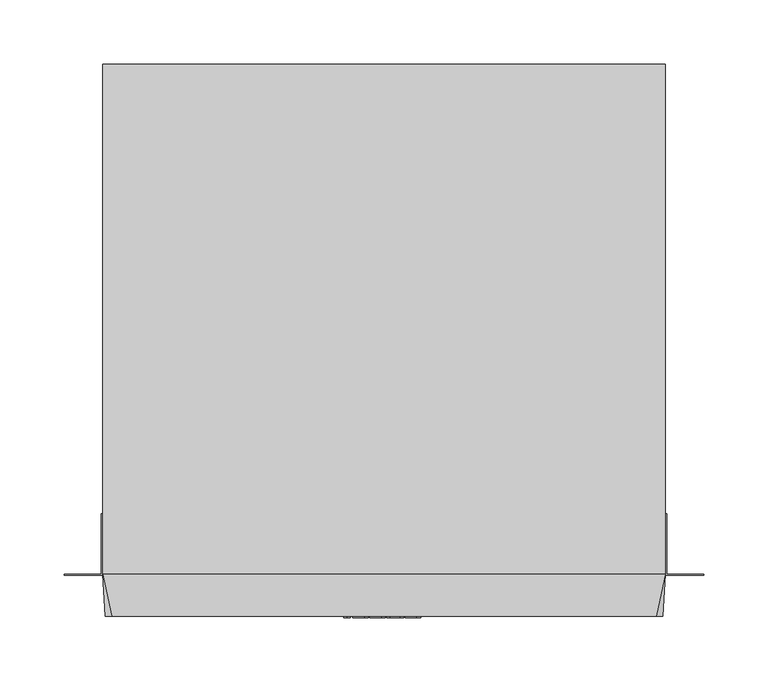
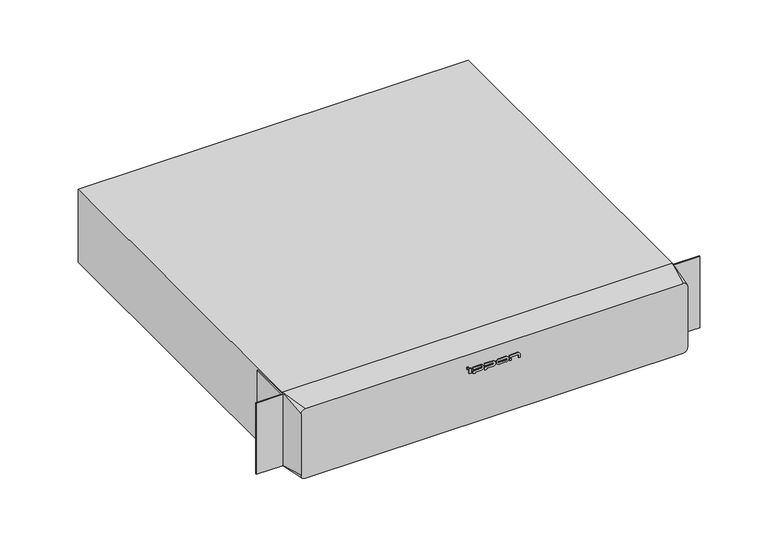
"""IFC4 building model written with IfcOpenShell, lengths in millimetres: proxy geometry, IPPON_EBM_Smart Winner II_1500_2000_2000E_3000ВА : EBM Smart Winner II 1500 ВА."""

import ifcopenshell
import ifcopenshell.guid

model = None  # the IFC model being written
_history = None  # IfcOwnerHistory: only IFC2X3 demands one
_inside = {}  # id of a spatial element -> (the spatial element, [elements in it])
_under = {}  # id of a project, library or spatial element -> (it, [spatial elements below it])
_declared = {}  # id of a project -> (the project, [libraries it declares])
_typed = {}  # id of a type object -> (the type object, [elements of that type])
_made_of = {}  # id of a material, layer set ... -> (it, [elements and type objects made of it])


def new_model(schema):
    """Start an empty IFC model of exactly this schema.

    Asked for "IFC4X3", IfcOpenShell would pick the latest addendum, in which some entities
    have other attributes; the version numbers below select the first issue.
    IFC2X3 requires an IfcOwnerHistory on every rooted entity: one is made here for all.
    """
    global model, _history
    if schema == "IFC4X3":
        model = ifcopenshell.file(schema_version=(4, 3, 0, 0))
    else:
        model = ifcopenshell.file(schema=schema)
    _inside.clear()
    _under.clear()
    _declared.clear()
    _typed.clear()
    _made_of.clear()
    _history = None
    if model.schema == "IFC2X3":
        org = make("IfcOrganization", Name="unknown")
        user = make(
            "IfcPersonAndOrganization",
            ThePerson=make("IfcPerson", FamilyName="unknown"),
            TheOrganization=org,
        )
        app = make(
            "IfcApplication",
            ApplicationDeveloper=org,
            Version="unknown",
            ApplicationFullName="unknown",
            ApplicationIdentifier="unknown",
        )
        _history = make(
            "IfcOwnerHistory",
            OwningUser=user,
            OwningApplication=app,
            ChangeAction="ADDED",
            CreationDate=0,
        )
    return model


def make(cls, **values):
    """One entity of the class cls with the attributes given. An attribute that is None is left unset."""
    return model.create_entity(
        cls, **{name: value for name, value in values.items() if value is not None}
    )


def rooted(cls, **values):
    """An entity with a GlobalId (a new one), such as an element, a storey or a relation."""
    return make(cls, GlobalId=ifcopenshell.guid.new(), OwnerHistory=_history, **values)


def si_unit(unit_type, name, prefix=None):
    """IfcSIUnit, for example si_unit("LENGTHUNIT", "METRE", prefix="MILLI")."""
    return make("IfcSIUnit", UnitType=unit_type, Prefix=prefix, Name=name)


def assignment(units):
    """IfcUnitAssignment: the units of a project."""
    return None if units is None else make("IfcUnitAssignment", Units=units)


def point(xyz):
    """IfcCartesianPoint."""
    return None if xyz is None else make("IfcCartesianPoint", Coordinates=xyz)


def direction(xyz):
    """IfcDirection."""
    return None if xyz is None else make("IfcDirection", DirectionRatios=xyz)


def frame(location, z_axis=None, x_axis=None):
    """IfcAxis2Placement3D, a coordinate frame: its origin and axes. An axis left out is left unset."""
    return make(
        "IfcAxis2Placement3D",
        Location=point(location),
        Axis=direction(z_axis),
        RefDirection=direction(x_axis),
    )


def frame_2d(location, x_axis=None):
    """IfcAxis2Placement2D, a coordinate frame in the plane: its origin and x axis."""
    return make(
        "IfcAxis2Placement2D", Location=point(location), RefDirection=direction(x_axis)
    )


def origin():
    """The frame at (0, 0, 0) with its axes left unset."""
    return frame((0.0, 0.0, 0.0))


def place(relative_to, where):
    """IfcLocalPlacement: puts the frame where relative to a parent placement (None: the world)."""
    return make(
        "IfcLocalPlacement", PlacementRelTo=relative_to, RelativePlacement=where
    )


def context(
    kind, dimensions, precision=None, world=None, true_north=None, identifier=None
):
    """IfcGeometricRepresentationContext, for example the 3D "Model" context."""
    return make(
        "IfcGeometricRepresentationContext",
        ContextIdentifier=identifier,
        ContextType=kind,
        CoordinateSpaceDimension=dimensions,
        Precision=precision,
        WorldCoordinateSystem=world,
        TrueNorth=true_north,
    )


def project(units=None, contexts=None):
    """IfcProject with its units and contexts."""
    return rooted(
        "IfcProject",
        Name="project",
        RepresentationContexts=contexts,
        UnitsInContext=assignment(units),
    )


def spatial(cls, under=None, at=None, **own):
    """A site, building, storey or space (cls), placed at a placement, below another one or the project."""
    s = rooted(cls, ObjectPlacement=at, **own)
    if under is not None:
        _under.setdefault(under.id(), (under, []))[1].append(s)
    return s


def polyline(points):
    """IfcPolyline through the points."""
    return make("IfcPolyline", Points=[point(p) for p in points])


def circle_curve(where, radius):
    """IfcCircle in the frame where."""
    return make("IfcCircle", Position=where, Radius=radius)


def trimmed(basis, trim1, trim2, sense, master):
    """IfcTrimmedCurve: the piece of a basis curve between two trims."""
    return make(
        "IfcTrimmedCurve",
        BasisCurve=basis,
        Trim1=trim1,
        Trim2=trim2,
        SenseAgreement=sense,
        MasterRepresentation=master,
    )


def segment(curve, same_sense, transition):
    """IfcCompositeCurveSegment."""
    return make(
        "IfcCompositeCurveSegment",
        Transition=transition,
        SameSense=same_sense,
        ParentCurve=curve,
    )


def composite_curve(segments, self_intersect=None):
    """IfcCompositeCurve: segments joined end to end."""
    return make("IfcCompositeCurve", Segments=segments, SelfIntersect=self_intersect)


def outline(outer, holes=None, kind="AREA"):
    """IfcArbitraryClosedProfileDef: a profile drawn as a closed curve; with holes, ...WithVoids."""
    if holes is None:
        return make("IfcArbitraryClosedProfileDef", ProfileType=kind, OuterCurve=outer)
    return make(
        "IfcArbitraryProfileDefWithVoids",
        ProfileType=kind,
        OuterCurve=outer,
        InnerCurves=holes,
    )


def extrude(swept, where, along, depth):
    """IfcExtrudedAreaSolid: the profile swept, set in the frame where, extruded along a direction by depth."""
    return make(
        "IfcExtrudedAreaSolid",
        SweptArea=swept,
        Position=where,
        ExtrudedDirection=direction(along),
        Depth=depth,
    )


def shape(context_of_items, identifier, shape_type, items):
    """IfcShapeRepresentation: the items that make up one representation, for example the "Body"."""
    return make(
        "IfcShapeRepresentation",
        ContextOfItems=context_of_items,
        RepresentationIdentifier=identifier,
        RepresentationType=shape_type,
        Items=items,
    )


def source(mapping_origin, context_of_items, identifier, shape_type, items):
    """IfcRepresentationMap: a shape defined once, which mapped items show again and again."""
    return make(
        "IfcRepresentationMap",
        MappingOrigin=mapping_origin,
        MappedRepresentation=shape(context_of_items, identifier, shape_type, items),
    )


def transform(
    local_origin,
    x_axis=None,
    y_axis=None,
    z_axis=None,
    scale=None,
    scale2=None,
    scale3=None,
    uniform=True,
):
    """IfcCartesianTransformationOperator3D, or its non-uniform kind. x_axis, y_axis, z_axis: its Axis1, 2, 3."""
    if uniform:
        return make(
            "IfcCartesianTransformationOperator3D",
            Axis1=direction(x_axis),
            Axis2=direction(y_axis),
            LocalOrigin=point(local_origin),
            Scale=scale,
            Axis3=direction(z_axis),
        )
    return make(
        "IfcCartesianTransformationOperator3DnonUniform",
        Axis1=direction(x_axis),
        Axis2=direction(y_axis),
        LocalOrigin=point(local_origin),
        Scale=scale,
        Axis3=direction(z_axis),
        Scale2=scale2,
        Scale3=scale3,
    )


def mapped(mapping_source, mapping_target):
    """IfcMappedItem: shows the shape of a source again, moved by a transform."""
    return make(
        "IfcMappedItem", MappingSource=mapping_source, MappingTarget=mapping_target
    )


def made_of(thing, what):
    """Note that an element or type object is made of a material, layer set ...; save() writes the relation."""
    if what is not None:
        _made_of.setdefault(what.id(), (what, []))[1].append(thing)
    return thing


def element(
    cls,
    number,
    at=None,
    inside=None,
    cuts=None,
    type_object=None,
    material=None,
    context=None,
    identifier="Body",
    shape_type=None,
    held_by="IfcProductDefinitionShape",
    body=None,
    shapes=None,
    **own,
):
    """One element of the class cls, such as IfcWall. Its Tag is "e" and its number.

    at: its placement. inside: the storey or other place that contains it. cuts: it is an
    opening in that element (IfcRelVoidsElement). A single representation is given by context,
    identifier, shape_type and body (its items); several are given by shapes. held_by: the class
    of the entity that holds the representations. save() writes the other relations.
    """
    e = rooted(cls, Tag="e%d" % number, ObjectPlacement=at, **own)
    if body is not None:
        shapes = [shape(context, identifier, shape_type, body)]
    if shapes is not None:
        e.Representation = make(held_by, Representations=shapes)
    if inside is not None:
        _inside.setdefault(inside.id(), (inside, []))[1].append(e)
    if cuts is not None:
        rooted(
            "IfcRelVoidsElement", RelatingBuildingElement=cuts, RelatedOpeningElement=e
        )
    if type_object is not None:
        _typed.setdefault(type_object.id(), (type_object, []))[1].append(e)
    return made_of(e, material)


def aggregate(whole, parts):
    """IfcRelAggregates: a whole, such as a stair, and the parts it consists of."""
    return rooted("IfcRelAggregates", RelatingObject=whole, RelatedObjects=parts)


def save(model, path):
    """Write the relations noted so far, then the file.

    IfcRelAggregates (storeys below a building ...), IfcRelContainedInSpatialStructure (elements
    in a storey), IfcRelDefinesByType, IfcRelAssociatesMaterial and IfcRelDeclares: one each for
    every whole, place, type object, material and project.
    """
    for whole, parts in _under.values():
        aggregate(whole, parts)
    for where, things in _inside.values():
        rooted(
            "IfcRelContainedInSpatialStructure",
            RelatedElements=things,
            RelatingStructure=where,
        )
    for kind, things in _typed.values():
        rooted("IfcRelDefinesByType", RelatedObjects=things, RelatingType=kind)
    for what, things in _made_of.values():
        rooted("IfcRelAssociatesMaterial", RelatedObjects=things, RelatingMaterial=what)
    for by, libraries in _declared.values():
        rooted("IfcRelDeclares", RelatingContext=by, RelatedDefinitions=libraries)
    model.write(path)


def plane_surface(at):
    """IfcPlane: the flat surface through the origin of the frame at, square to its z axis."""
    return make("IfcPlane", Position=at)


def spline_surface(u_degree, v_degree, points, u_multiplicities, v_multiplicities, u_knots, v_knots, weights=None):
    """IfcBSplineSurfaceWithKnots; with weights, IfcRationalBSplineSurfaceWithKnots. points: one row for each step in u."""
    own = dict(
        UDegree=u_degree,
        VDegree=v_degree,
        ControlPointsList=[[point(p) for p in row] for row in points],
        SurfaceForm="UNSPECIFIED",
        UClosed=False,
        VClosed=False,
        SelfIntersect=False,
        UMultiplicities=u_multiplicities,
        VMultiplicities=v_multiplicities,
        UKnots=u_knots,
        VKnots=v_knots,
        KnotSpec="UNSPECIFIED",
    )
    if weights is None:
        return make("IfcBSplineSurfaceWithKnots", **own)
    return make("IfcRationalBSplineSurfaceWithKnots", WeightsData=weights, **own)


def advanced_brep(points, edges, surfaces, faces):
    """IfcAdvancedBrep: a solid bounded by faces that lie on surfaces and meet in shared edges.

    An edge is (start, end): straight between two places in points (the first is 0);
    or (start, end, curve); or (start, end, curve, False) where it runs against its curve.
    A face is (place in surfaces, loops), or (place, loops, False) where it looks against
    its surface's normal. A loop lists edges by number (the first is 1), with a minus sign
    where the edge is run from its end to its start. The first loop is the outer one.
    """
    corners = [point(p) for p in points]
    vertices = [make("IfcVertexPoint", VertexGeometry=c) for c in corners]
    made = []
    for start, end, *more in edges:
        made.append(
            make(
                "IfcEdgeCurve",
                EdgeStart=vertices[start],
                EdgeEnd=vertices[end],
                EdgeGeometry=more[0] if more else make("IfcPolyline", Points=[corners[start], corners[end]]),
                SameSense=more[1] if len(more) > 1 else True,
            )
        )
    hull = []
    for where, loops, *sense in faces:
        bounds = []
        for j, loop in enumerate(loops):
            ring = [make("IfcOrientedEdge", EdgeElement=made[abs(k) - 1], Orientation=k > 0) for k in loop]
            bounds.append(
                make(
                    "IfcFaceOuterBound" if j == 0 else "IfcFaceBound",
                    Bound=make("IfcEdgeLoop", EdgeList=ring),
                    Orientation=True,
                )
            )
        hull.append(make("IfcAdvancedFace", Bounds=bounds, FaceSurface=surfaces[where], SameSense=sense[0] if sense else True))
    return make("IfcAdvancedBrep", Outer=make("IfcClosedShell", CfsFaces=hull))


def electrical_equipment_7cab53b0(model_context):
    return source(origin(), model_context, "Body", "SolidModel", [
        extrude(outline(polyline([(-29.1718133, -1.0), (-31.1718133, -1.0), (-31.1718133, 0.0), (-29.1718133, 0.0), (-29.1718133, -1.0)])), frame((0.0, 0.0, 70.0945835), z_axis=(0.0, 0.0, 1.0), x_axis=(1.0, 0.0, 0.0)), (0.0, 0.0, 1.0), 2.3),
        extrude(outline(polyline([(18.6035474, -1.0), (16.6035474, -1.0), (16.6035474, 0.0), (18.6035474, 0.0), (18.6035474, -1.0)])), frame((0.0, 0.0, 64.0945835), z_axis=(0.0, 0.0, 1.0), x_axis=(1.0, 0.0, 0.0)), (0.0, 0.0, 1.0), 2.2268231),
        extrude(outline(polyline([(-26.438565, -1.0), (-28.4833324, -1.0), (-28.4833324, 0.0), (-26.438565, 0.0), (-26.438565, -1.0)])), frame((0.0, 0.0, 64.0945835), z_axis=(0.0, 0.0, 1.0), x_axis=(1.0, 0.0, 0.0)), (0.0, 0.0, 1.0), 6.0),
        extrude(outline(composite_curve([segment(polyline([(67.8321435, -24.2241109), (67.8321435, -14.9923536)]), True, "CONTINUOUS"), segment(trimmed(circle_curve(frame_2d((66.9756642, -14.9923536)), 0.8564793), [point((67.8321435, -14.9923536))], [point((66.1191849, -14.9923536))], True, "CARTESIAN"), True, "CONTINUOUS"), segment(polyline([(66.1191849, -14.9923536), (66.1191849, -24.2241109), (62.6286803, -24.2241109), (62.6286803, -22.2241109), (64.0945835, -22.2241109), (64.0945835, -15.1486036)]), True, "CONTINUOUS"), segment(trimmed(circle_curve(frame_2d((67.0945835, -15.1486036)), 3.0), [point((64.0945835, -15.1486036))], [point((70.0945835, -15.1486036))], False, "CARTESIAN"), True, "CONTINUOUS"), segment(polyline([(70.0945835, -15.1486036), (70.0945835, -24.2241109), (67.8321435, -24.2241109)]), True, "CONTINUOUS")], self_intersect=False)), frame((0.0, -1.0, 0.0), z_axis=(0.0, 1.0, 0.0), x_axis=(0.0, 0.0, 1.0)), (0.0, 0.0, 1.0), 1.0),
        extrude(outline(composite_curve([segment(polyline([(67.8321435, -11.0171091), (67.8321435, -1.7853518)]), True, "CONTINUOUS"), segment(trimmed(circle_curve(frame_2d((66.9756642, -1.7853518)), 0.8564793), [point((67.8321435, -1.7853518))], [point((66.1191849, -1.7853518))], True, "CARTESIAN"), True, "CONTINUOUS"), segment(polyline([(66.1191849, -1.7853518), (66.1191849, -11.0171091), (62.6286803, -11.0171091), (62.6286803, -9.0171091), (64.0945835, -9.0171091), (64.0945835, -1.9416018)]), True, "CONTINUOUS"), segment(trimmed(circle_curve(frame_2d((67.0945835, -1.9416018)), 3.0), [point((64.0945835, -1.9416018))], [point((70.0945835, -1.9416018))], False, "CARTESIAN"), True, "CONTINUOUS"), segment(polyline([(70.0945835, -1.9416018), (70.0945835, -11.0171091), (67.8321435, -11.0171091)]), True, "CONTINUOUS")], self_intersect=False)), frame((0.0, -1.0, 0.0), z_axis=(0.0, 1.0, 0.0), x_axis=(0.0, 0.0, 1.0)), (0.0, 0.0, 1.0), 1.0),
        extrude(outline(composite_curve([segment(trimmed(circle_curve(frame_2d((67.0945835, 12.558657)), 3.0), [point((64.0945835, 12.558657))], [point((70.0945835, 12.558657))], False, "CARTESIAN"), True, "CONTINUOUS"), segment(polyline([(70.0945835, 12.558657), (70.0945835, 4.958657)]), True, "CONTINUOUS"), segment(trimmed(circle_curve(frame_2d((67.0945835, 4.958657)), 3.0), [point((70.0945835, 4.958657))], [point((64.0945835, 4.958657))], False, "CARTESIAN"), True, "CONTINUOUS"), segment(polyline([(64.0945835, 4.958657), (64.0945835, 12.558657)]), True, "CONTINUOUS")], self_intersect=False), holes=[composite_curve([segment(polyline([(66.1191849, 12.714907), (66.1191849, 4.802407)]), True, "CONTINUOUS"), segment(trimmed(circle_curve(frame_2d((66.9756642, 4.802407)), 0.8564793), [point((66.1191849, 4.802407))], [point((67.8321435, 4.802407))], True, "CARTESIAN"), True, "CONTINUOUS"), segment(polyline([(67.8321435, 4.802407), (67.8321435, 12.714907)]), True, "CONTINUOUS"), segment(trimmed(circle_curve(frame_2d((66.9756642, 12.714907)), 0.8564793), [point((67.8321435, 12.714907))], [point((66.1191849, 12.714907))], True, "CARTESIAN"), True, "CONTINUOUS")], self_intersect=False)]), frame((0.0, -1.0, 0.0), z_axis=(0.0, 1.0, 0.0), x_axis=(0.0, 0.0, 1.0)), (0.0, 0.0, 1.0), 1.0),
        extrude(outline(composite_curve([segment(polyline([(67.8321435, 16.6035474), (67.8321435, 25.8353046)]), True, "CONTINUOUS"), segment(trimmed(circle_curve(frame_2d((66.9756642, 25.8353046)), 0.8564793), [point((67.8321435, 25.8353046))], [point((66.9756642, 26.6917839))], True, "CARTESIAN"), True, "CONTINUOUS"), segment(polyline([(66.9756642, 26.6917839), (64.0945835, 26.6917839), (64.0945835, 28.6317921), (67.625, 28.6317921)]), True, "CONTINUOUS"), segment(trimmed(circle_curve(frame_2d((67.0945835, 25.6790546)), 3.0), [point((67.625, 28.6317921))], [point((70.0945835, 25.6790546))], False, "CARTESIAN"), True, "CONTINUOUS"), segment(polyline([(70.0945835, 25.6790546), (70.0945835, 16.6035474), (67.8321435, 16.6035474)]), True, "CONTINUOUS")], self_intersect=False)), frame((0.0, -1.0, 0.0), z_axis=(0.0, 1.0, 0.0), x_axis=(0.0, 0.0, 1.0)), (0.0, 0.0, 1.0), 1.0),
        extrude(outline(polyline([(219.0, 32.0), (219.0, 80.0), (220.0, 80.0), (220.0, 33.0), (249.0, 33.0), (249.0, 32.0), (219.0, 32.0)])), frame((0.0, 0.0, 2.0), z_axis=(0.0, 0.0, 1.0), x_axis=(1.0, 0.0, 0.0)), (0.0, 0.0, 1.0), 84.5),
        extrude(outline(polyline([(-219.0, 32.0), (-249.0, 32.0), (-249.0, 33.0), (-220.0, 33.0), (-220.0, 80.0), (-219.0, 80.0), (-219.0, 32.0)])), frame((0.0, 0.0, 2.0), z_axis=(0.0, 0.0, 1.0), x_axis=(1.0, 0.0, 0.0)), (0.0, 0.0, 1.0), 84.5),
        advanced_brep(
        [(212.0, 0.0, 4.0), (217.0, 0.0, 9.0), (217.0, 0.0, 81.5), (212.0, 0.0, 86.5), (-212.0, 0.0, 86.5), (-217.0, 0.0, 81.5), (-217.0, 0.0, 9.0), (-212.0, 0.0, 4.0), (219.0, 33.0, 2.0), (-219.0, 33.0, 2.0), (-219.0, 33.0, 88.5), (219.0, 33.0, 88.5)],
        [
            (0, 1, circle_curve(frame((212.0, 0.0, 9.0), z_axis=(0.0, -1.0, 0.0), x_axis=(-1.0, 0.0, 0.0)), 5.0)),
            (1, 2),
            (2, 3, circle_curve(frame((212.0, 0.0, 81.5), z_axis=(0.0, -1.0, 0.0), x_axis=(-1.0, 0.0, 0.0)), 5.0)),
            (3, 4),
            (4, 5, circle_curve(frame((-212.0, 0.0, 81.5), z_axis=(0.0, -1.0, 0.0), x_axis=(-1.0, 0.0, 0.0)), 5.0)),
            (5, 6),
            (6, 7, circle_curve(frame((-212.0, 0.0, 9.0), z_axis=(0.0, -1.0, 0.0), x_axis=(-1.0, 0.0, 0.0)), 5.0)),
            (7, 0),
            (8, 9),
            (9, 10),
            (10, 11),
            (11, 8),
            (0, 8),
            (8, 1),
            (7, 9),
            (6, 9),
            (5, 10),
            (4, 10),
            (3, 11),
            (2, 11),
        ],
        [
            plane_surface(frame((0.0, 0.0, 45.25), z_axis=(0.0, -1.0, 0.0), x_axis=(1.0, 0.0, 0.0))),
            plane_surface(frame((0.0, 33.0, 45.25), z_axis=(0.0, 1.0, 0.0), x_axis=(1.0, 0.0, 0.0))),
            spline_surface(2, 1, [[(219.0, 33.0, 2.0), (212.0, 0.0, 4.0)], [(219.0, 33.0, 2.0), (217.0, 0.0, 4.0)], [(219.0, 33.0, 2.0), (217.0, 0.0, 9.0)]], [3, 3], [2, 2], [0.0, 1.0], [0.0, 1.0], weights=[[1.0, 1.0], [0.7071067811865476, 0.7071067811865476], [1.0, 1.0]]),
            plane_surface(frame((0.0, 33.0, 2.0), z_axis=(0.0, -0.060495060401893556, -0.9981684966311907), x_axis=(1.0, 0.0, 0.0))),
            spline_surface(2, 1, [[(-219.0, 33.0, 2.0), (-217.0, 0.0, 9.0)], [(-219.0, 33.0, 2.0), (-217.0, 0.0, 4.0)], [(-219.0, 33.0, 2.0), (-212.0, 0.0, 4.0)]], [3, 3], [2, 2], [0.0, 1.0], [0.0, 1.0], weights=[[1.0, 1.0], [0.7071067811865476, 0.7071067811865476], [1.0, 1.0]]),
            plane_surface(frame((-219.0, 33.0, 45.25), z_axis=(-0.9981684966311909, -0.06049506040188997, 0.0), x_axis=(0.0, 0.0, -1.0))),
            spline_surface(2, 1, [[(-219.0, 33.0, 88.5), (-212.0, 0.0, 86.5)], [(-219.0, 33.0, 88.5), (-217.0, 0.0, 86.5)], [(-219.0, 33.0, 88.5), (-217.0, 0.0, 81.5)]], [3, 3], [2, 2], [0.0, 1.0], [0.0, 1.0], weights=[[1.0, 1.0], [0.7071067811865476, 0.7071067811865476], [1.0, 1.0]]),
            plane_surface(frame((0.0, 33.0, 88.5), z_axis=(0.0, -0.060495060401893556, 0.9981684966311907), x_axis=(-1.0, 0.0, 0.0))),
            spline_surface(2, 1, [[(219.0, 33.0, 88.5), (217.0, 0.0, 81.5)], [(219.0, 33.0, 88.5), (217.0, 0.0, 86.5)], [(219.0, 33.0, 88.5), (212.0, 0.0, 86.5)]], [3, 3], [2, 2], [0.0, 1.0], [0.0, 1.0], weights=[[1.0, 1.0], [0.7071067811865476, 0.7071067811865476], [1.0, 1.0]]),
            plane_surface(frame((219.0, 33.0, 45.25), z_axis=(0.9981684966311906, -0.06049506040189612, 0.0), x_axis=(0.0, 0.0, 1.0))),
        ],
        [
            (0, [[1, 2, 3, 4, 5, 6, 7, 8]]),
            (1, [[9, 10, 11, 12]]),
            (2, [[-1, 13, 14]]),
            (3, [[-9, -13, -8, 15]]),
            (4, [[-7, 16, -15]]),
            (5, [[-10, -16, -6, 17]]),
            (6, [[-5, 18, -17]]),
            (7, [[-11, -18, -4, 19]]),
            (8, [[-3, 20, -19]]),
            (9, [[-12, -20, -2, -14]]),
        ],
    ),
        extrude(outline(polyline([(219.0, 33.0), (-219.0, 33.0), (-219.0, 430.0), (219.0, 430.0), (219.0, 33.0)])), frame((0.0, 0.0, 2.0), z_axis=(0.0, 0.0, 1.0), x_axis=(1.0, 0.0, 0.0)), (0.0, 0.0, 1.0), 86.5),
    ])


if __name__ == "__main__":
    model = new_model("IFC4")
    model_context = context("Model", 3, world=origin())
    ifc_project = project(units=[si_unit("LENGTHUNIT", "METRE", prefix="MILLI")], contexts=[model_context])
    site = spatial("IfcSite", under=ifc_project)
    building = spatial("IfcBuilding", under=site)
    placement = place(None, origin())
    electrical_equipment_shape = electrical_equipment_7cab53b0(model_context)
    element("IfcBuildingElementProxy", 1, Name="IPPON_EBM_Smart Winner II_1500_2000_2000E_3000ВА : EBM Smart Winner II 1500 ВА", ObjectType="IPPON_EBM_Smart Winner II_1500_2000_2000E_3000ВА : EBM Smart Winner II 1500 ВА", at=placement, inside=building, context=model_context, shape_type="MappedRepresentation", body=[
        mapped(electrical_equipment_shape, transform((0.0, 0.0, 0.0), x_axis=(1.0, 0.0, 0.0), y_axis=(0.0, 1.0, 0.0), z_axis=(0.0, 0.0, 1.0))),
    ])
    save(model, "model.ifc")
